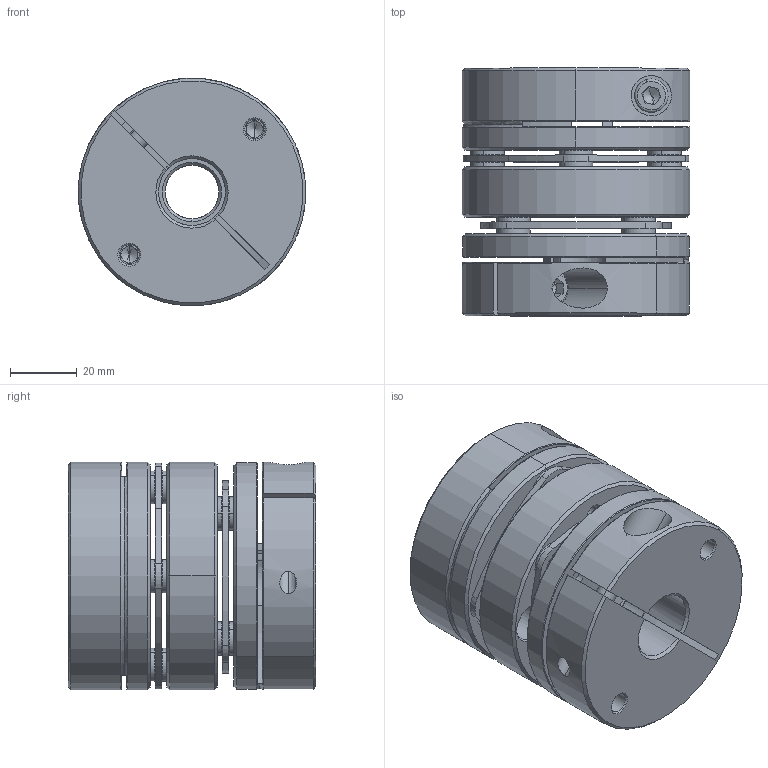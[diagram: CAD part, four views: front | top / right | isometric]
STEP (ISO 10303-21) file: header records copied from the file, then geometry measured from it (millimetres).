
FILE_DESCRIPTION (( 'STEP AP203' ), '1' );
FILE_NAME ('LD2-D68-16-20.STEP', '2021-10-26T08:17:19', ( '' ), ( '' ), 'SwSTEP 2.0', 'SolidWorks 2018', '' );
FILE_SCHEMA (( 'CONFIG_CONTROL_DESIGN' ));
Length unit declared in the file: millimetre
Products named in the file (2): 錨璃102^LD2-D68; LD2-D68-16-20
Assembly tree (1 placements, depth 2):
  LD2-D68-16-20
    錨璃102^LD2-D68
Bounding box: 68 x 74 x 68 mm (x, y, z)
Volume: 192313.4 mm3; surface area: 64920.1 mm2
Topology: 1 solids, 27 shells, 738 faces, 1724 edges, 1050 vertices
Faces by surface type: cylinder 258, cone 226, plane 224, torus 30
Entity records: 21692 total; most frequent: DIRECTION 4032, CARTESIAN_POINT 3958, ORIENTED_EDGE 3400, EDGE_CURVE 1700, AXIS2_PLACEMENT_3D 1636, VERTEX_POINT 1050, CIRCLE 894, EDGE_LOOP 874
